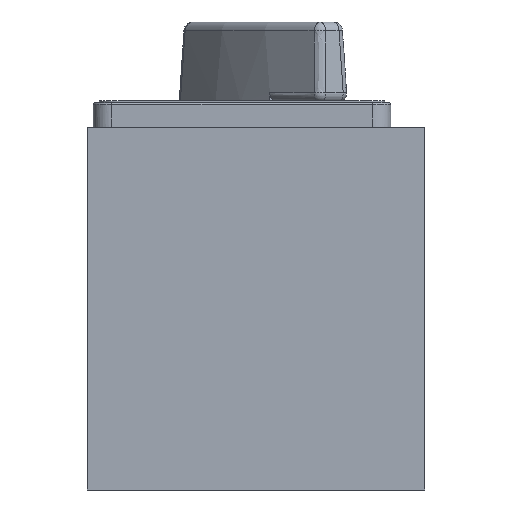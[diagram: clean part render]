
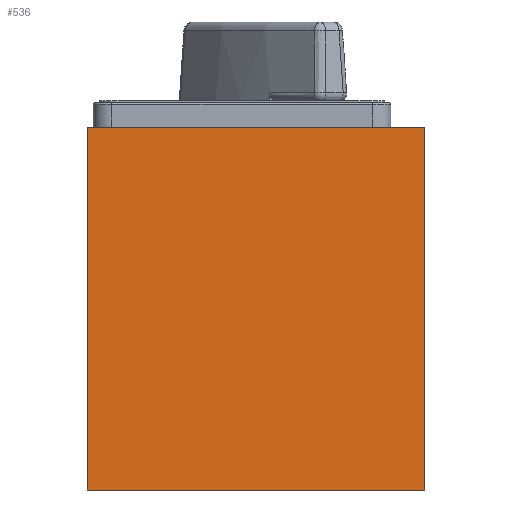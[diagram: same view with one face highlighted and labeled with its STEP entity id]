
A CAD part, left-side view. The second image highlights one B-rep face of the part: STEP entity #536.
In plain terms, the highlighted planar face has unit normal (-1, 0, 0).
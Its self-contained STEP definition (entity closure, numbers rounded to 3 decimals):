
#437=PLANE('',#1761);
#536=ADVANCED_FACE('',(#628),#437,.T.);
#628=FACE_OUTER_BOUND('',#746,.T.);
#746=EDGE_LOOP('',(#1137,#1138,#1139,#1140));
#1137=ORIENTED_EDGE('',*,*,#1471,.T.);
#1138=ORIENTED_EDGE('',*,*,#1474,.T.);
#1139=ORIENTED_EDGE('',*,*,#1476,.T.);
#1140=ORIENTED_EDGE('',*,*,#1477,.T.);
#1277=VERTEX_POINT('',#3626);
#1278=VERTEX_POINT('',#3631);
#1279=VERTEX_POINT('',#3641);
#1280=VERTEX_POINT('',#3651);
#1471=EDGE_CURVE('',#1278,#1277,#1663,.T.);
#1474=EDGE_CURVE('',#1277,#1279,#1666,.T.);
#1476=EDGE_CURVE('',#1279,#1280,#1668,.T.);
#1477=EDGE_CURVE('',#1280,#1278,#1669,.T.);
#1663=B_SPLINE_CURVE_WITH_KNOTS('',3,(#3627,#3628,#3629,#3630),
 .UNSPECIFIED.,.F.,.F.,(4,4),(0.,1.),.UNSPECIFIED.);
#1666=B_SPLINE_CURVE_WITH_KNOTS('',3,(#3642,#3643,#3644,#3645),
 .UNSPECIFIED.,.F.,.F.,(4,4),(0.,1.),.UNSPECIFIED.);
#1668=B_SPLINE_CURVE_WITH_KNOTS('',3,(#3652,#3653,#3654,#3655),
 .UNSPECIFIED.,.F.,.F.,(4,4),(0.,1.),.UNSPECIFIED.);
#1669=B_SPLINE_CURVE_WITH_KNOTS('',3,(#3657,#3658,#3659,#3660),
 .UNSPECIFIED.,.F.,.F.,(4,4),(0.,1.),.UNSPECIFIED.);
#1761=AXIS2_PLACEMENT_3D('',#3662,#1945,#1946);
#1945=DIRECTION('',(-1.,0.,0.));
#1946=DIRECTION('',(0.,0.,-1.));
#3626=CARTESIAN_POINT('',(-25.,-54.5,0.));
#3627=CARTESIAN_POINT('',(-25.,0.,0.));
#3628=CARTESIAN_POINT('',(-25.,-18.167,0.));
#3629=CARTESIAN_POINT('',(-25.,-36.333,0.));
#3630=CARTESIAN_POINT('',(-25.,-54.5,0.));
#3631=CARTESIAN_POINT('',(-25.,0.,0.));
#3641=CARTESIAN_POINT('',(-25.,-54.5,58.5));
#3642=CARTESIAN_POINT('',(-25.,-54.5,0.));
#3643=CARTESIAN_POINT('',(-25.,-54.5,19.5));
#3644=CARTESIAN_POINT('',(-25.,-54.5,39.));
#3645=CARTESIAN_POINT('',(-25.,-54.5,58.5));
#3651=CARTESIAN_POINT('',(-25.,0.,58.5));
#3652=CARTESIAN_POINT('',(-25.,-54.5,58.5));
#3653=CARTESIAN_POINT('',(-25.,-36.333,58.5));
#3654=CARTESIAN_POINT('',(-25.,-18.167,58.5));
#3655=CARTESIAN_POINT('',(-25.,0.,58.5));
#3657=CARTESIAN_POINT('',(-25.,0.,58.5));
#3658=CARTESIAN_POINT('',(-25.,0.,39.));
#3659=CARTESIAN_POINT('',(-25.,0.,19.5));
#3660=CARTESIAN_POINT('',(-25.,0.,0.));
#3662=CARTESIAN_POINT('',(-25.,-54.5,0.));
